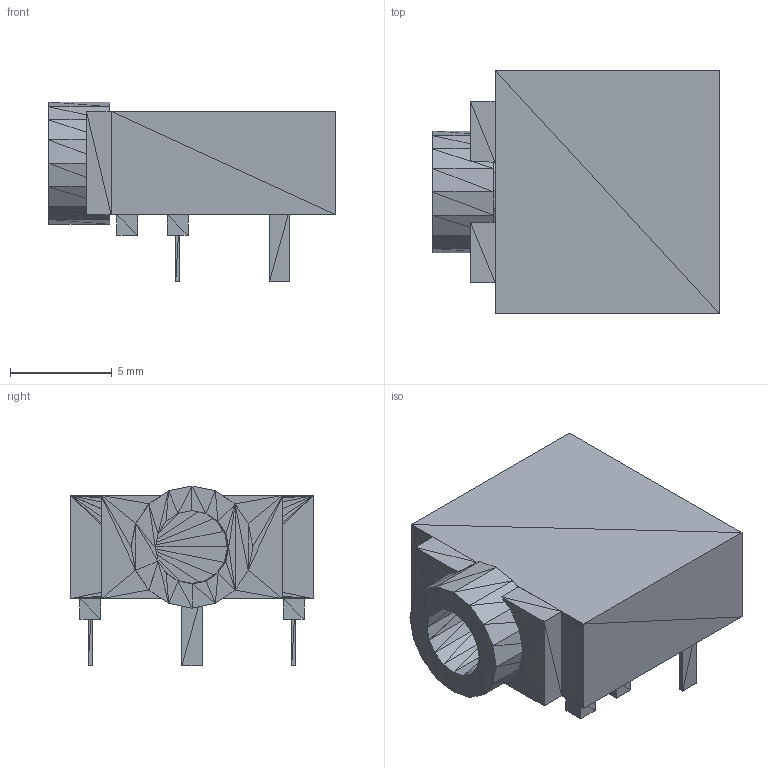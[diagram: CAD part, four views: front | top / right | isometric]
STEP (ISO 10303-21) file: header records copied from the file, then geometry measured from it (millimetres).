
FILE_DESCRIPTION(('HOOPS Exchange Step'),'2;1');
FILE_NAME('***.stp');
FILE_SCHEMA( ('AP242_MANAGED_MODEL_BASED_3D_ENGINEERING_MIM_LF {1 0 10303 442 1 1 4 }') );
Length unit declared in the file: inch
Products named in the file (13): PHJKMINIST_2; PHJKMINIST_3; PHJKMINIST_4; PHJKMINIST_5; PHJKMINIST_6; PHJKMINIST_7; PHJKMINIST_8; PHJKMINIST_9; PHJKMINIST_10; PHJKMINIST_11; PHJKMINIST_12; PHJKMINIST_13; PHJKMINIST
Assembly tree (12 placements, depth 2):
  PHJKMINIST
    PHJKMINIST_2
    PHJKMINIST_3
    PHJKMINIST_4
    PHJKMINIST_5
    PHJKMINIST_6
    PHJKMINIST_7
    PHJKMINIST_8
    PHJKMINIST_9
    PHJKMINIST_10
    PHJKMINIST_11
    PHJKMINIST_12
    PHJKMINIST_13
Bounding box: 14.1 x 11.99 x 8.84 mm (x, y, z)
Volume: 648.2 mm3; surface area: 1203.4 mm2
Topology: 12 solids, 12 shells, 488 faces, 732 edges, 264 vertices
Faces by surface type: plane 488
Entity records: 10102 total; most frequent: DIRECTION 1760, CARTESIAN_POINT 1510, ORIENTED_EDGE 1464, VECTOR 732, LINE 732, EDGE_CURVE 732, AXIS2_PLACEMENT_3D 514, PLANE 488
